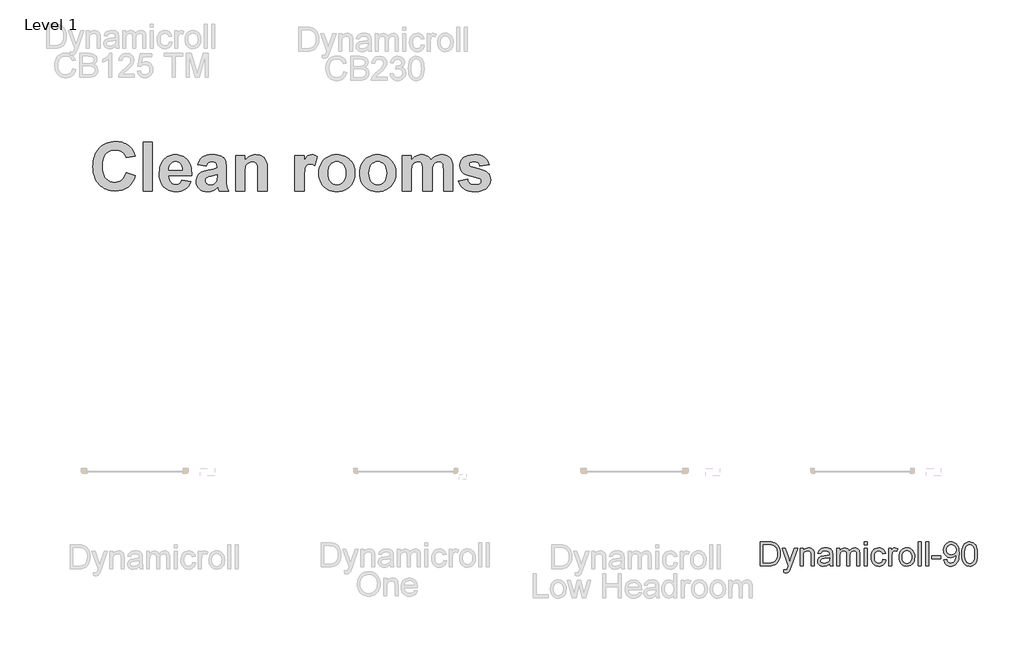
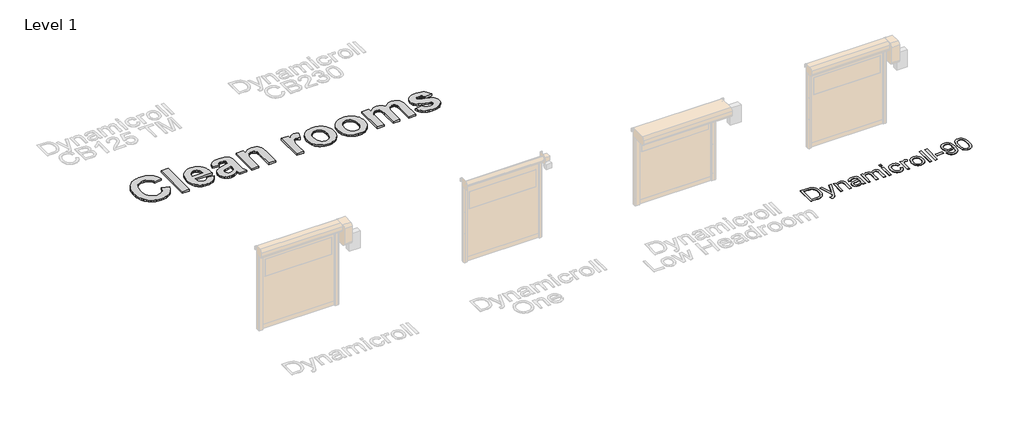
# One storey, part 15 of 20: 2 proxies.
"""IFC4 building model written with IfcOpenShell, lengths in millimetres."""

import ifcopenshell
import ifcopenshell.guid

model = None  # the IFC model being written
_history = None  # IfcOwnerHistory: only IFC2X3 demands one
_inside = {}  # id of a spatial element -> (the spatial element, [elements in it])
_under = {}  # id of a project, library or spatial element -> (it, [spatial elements below it])
_declared = {}  # id of a project -> (the project, [libraries it declares])
_typed = {}  # id of a type object -> (the type object, [elements of that type])
_made_of = {}  # id of a material, layer set ... -> (it, [elements and type objects made of it])


def new_model(schema):
    """Start an empty IFC model of exactly this schema.

    Asked for "IFC4X3", IfcOpenShell would pick the latest addendum, in which some entities
    have other attributes; the version numbers below select the first issue.
    IFC2X3 requires an IfcOwnerHistory on every rooted entity: one is made here for all.
    """
    global model, _history
    if schema == "IFC4X3":
        model = ifcopenshell.file(schema_version=(4, 3, 0, 0))
    else:
        model = ifcopenshell.file(schema=schema)
    _inside.clear()
    _under.clear()
    _declared.clear()
    _typed.clear()
    _made_of.clear()
    _history = None
    if model.schema == "IFC2X3":
        org = make("IfcOrganization", Name="unknown")
        user = make(
            "IfcPersonAndOrganization",
            ThePerson=make("IfcPerson", FamilyName="unknown"),
            TheOrganization=org,
        )
        app = make(
            "IfcApplication",
            ApplicationDeveloper=org,
            Version="unknown",
            ApplicationFullName="unknown",
            ApplicationIdentifier="unknown",
        )
        _history = make(
            "IfcOwnerHistory",
            OwningUser=user,
            OwningApplication=app,
            ChangeAction="ADDED",
            CreationDate=0,
        )
    return model


def make(cls, **values):
    """One entity of the class cls with the attributes given. An attribute that is None is left unset."""
    return model.create_entity(
        cls, **{name: value for name, value in values.items() if value is not None}
    )


def rooted(cls, **values):
    """An entity with a GlobalId (a new one), such as an element, a storey or a relation."""
    return make(cls, GlobalId=ifcopenshell.guid.new(), OwnerHistory=_history, **values)


def si_unit(unit_type, name, prefix=None):
    """IfcSIUnit, for example si_unit("LENGTHUNIT", "METRE", prefix="MILLI")."""
    return make("IfcSIUnit", UnitType=unit_type, Prefix=prefix, Name=name)


def assignment(units):
    """IfcUnitAssignment: the units of a project."""
    return None if units is None else make("IfcUnitAssignment", Units=units)


def point(xyz):
    """IfcCartesianPoint."""
    return None if xyz is None else make("IfcCartesianPoint", Coordinates=xyz)


def direction(xyz):
    """IfcDirection."""
    return None if xyz is None else make("IfcDirection", DirectionRatios=xyz)


def frame(location, z_axis=None, x_axis=None):
    """IfcAxis2Placement3D, a coordinate frame: its origin and axes. An axis left out is left unset."""
    return make(
        "IfcAxis2Placement3D",
        Location=point(location),
        Axis=direction(z_axis),
        RefDirection=direction(x_axis),
    )


def origin():
    """The frame at (0, 0, 0) with its axes left unset."""
    return frame((0.0, 0.0, 0.0))


def origin_with_axes():
    """The frame at (0, 0, 0) with the z axis (0, 0, 1) and the x axis (1, 0, 0) written out."""
    return frame((0.0, 0.0, 0.0), z_axis=(0.0, 0.0, 1.0), x_axis=(1.0, 0.0, 0.0))


def place(relative_to, where):
    """IfcLocalPlacement: puts the frame where relative to a parent placement (None: the world)."""
    return make(
        "IfcLocalPlacement", PlacementRelTo=relative_to, RelativePlacement=where
    )


def context(
    kind, dimensions, precision=None, world=None, true_north=None, identifier=None
):
    """IfcGeometricRepresentationContext, for example the 3D "Model" context."""
    return make(
        "IfcGeometricRepresentationContext",
        ContextIdentifier=identifier,
        ContextType=kind,
        CoordinateSpaceDimension=dimensions,
        Precision=precision,
        WorldCoordinateSystem=world,
        TrueNorth=true_north,
    )


def project(units=None, contexts=None):
    """IfcProject with its units and contexts."""
    return rooted(
        "IfcProject",
        Name="project",
        RepresentationContexts=contexts,
        UnitsInContext=assignment(units),
    )


def spatial(cls, under=None, at=None, **own):
    """A site, building, storey or space (cls), placed at a placement, below another one or the project."""
    s = rooted(cls, ObjectPlacement=at, **own)
    if under is not None:
        _under.setdefault(under.id(), (under, []))[1].append(s)
    return s


def polyline(points):
    """IfcPolyline through the points."""
    return make("IfcPolyline", Points=[point(p) for p in points])


def outline(outer, holes=None, kind="AREA"):
    """IfcArbitraryClosedProfileDef: a profile drawn as a closed curve; with holes, ...WithVoids."""
    if holes is None:
        return make("IfcArbitraryClosedProfileDef", ProfileType=kind, OuterCurve=outer)
    return make(
        "IfcArbitraryProfileDefWithVoids",
        ProfileType=kind,
        OuterCurve=outer,
        InnerCurves=holes,
    )


def extrude(swept, where, along, depth):
    """IfcExtrudedAreaSolid: the profile swept, set in the frame where, extruded along a direction by depth."""
    return make(
        "IfcExtrudedAreaSolid",
        SweptArea=swept,
        Position=where,
        ExtrudedDirection=direction(along),
        Depth=depth,
    )


def shape(context_of_items, identifier, shape_type, items):
    """IfcShapeRepresentation: the items that make up one representation, for example the "Body"."""
    return make(
        "IfcShapeRepresentation",
        ContextOfItems=context_of_items,
        RepresentationIdentifier=identifier,
        RepresentationType=shape_type,
        Items=items,
    )


def made_of(thing, what):
    """Note that an element or type object is made of a material, layer set ...; save() writes the relation."""
    if what is not None:
        _made_of.setdefault(what.id(), (what, []))[1].append(thing)
    return thing


def element(
    cls,
    number,
    at=None,
    inside=None,
    cuts=None,
    type_object=None,
    material=None,
    context=None,
    identifier="Body",
    shape_type=None,
    held_by="IfcProductDefinitionShape",
    body=None,
    shapes=None,
    **own,
):
    """One element of the class cls, such as IfcWall. Its Tag is "e" and its number.

    at: its placement. inside: the storey or other place that contains it. cuts: it is an
    opening in that element (IfcRelVoidsElement). A single representation is given by context,
    identifier, shape_type and body (its items); several are given by shapes. held_by: the class
    of the entity that holds the representations. save() writes the other relations.
    """
    e = rooted(cls, Tag="e%d" % number, ObjectPlacement=at, **own)
    if body is not None:
        shapes = [shape(context, identifier, shape_type, body)]
    if shapes is not None:
        e.Representation = make(held_by, Representations=shapes)
    if inside is not None:
        _inside.setdefault(inside.id(), (inside, []))[1].append(e)
    if cuts is not None:
        rooted(
            "IfcRelVoidsElement", RelatingBuildingElement=cuts, RelatedOpeningElement=e
        )
    if type_object is not None:
        _typed.setdefault(type_object.id(), (type_object, []))[1].append(e)
    return made_of(e, material)


def aggregate(whole, parts):
    """IfcRelAggregates: a whole, such as a stair, and the parts it consists of."""
    return rooted("IfcRelAggregates", RelatingObject=whole, RelatedObjects=parts)


def save(model, path):
    """Write the relations noted so far, then the file.

    IfcRelAggregates (storeys below a building ...), IfcRelContainedInSpatialStructure (elements
    in a storey), IfcRelDefinesByType, IfcRelAssociatesMaterial and IfcRelDeclares: one each for
    every whole, place, type object, material and project.
    """
    for whole, parts in _under.values():
        aggregate(whole, parts)
    for where, things in _inside.values():
        rooted(
            "IfcRelContainedInSpatialStructure",
            RelatedElements=things,
            RelatingStructure=where,
        )
    for kind, things in _typed.values():
        rooted("IfcRelDefinesByType", RelatedObjects=things, RelatingType=kind)
    for what, things in _made_of.values():
        rooted("IfcRelAssociatesMaterial", RelatedObjects=things, RelatingMaterial=what)
    for by, libraries in _declared.values():
        rooted("IfcRelDeclares", RelatingContext=by, RelatedDefinitions=libraries)
    model.write(path)


model = new_model("IFC4")

# Units and contexts
model_context = context("Model", 3, world=origin())
ifc_project = project(units=[si_unit("LENGTHUNIT", "METRE", prefix="MILLI")], contexts=[model_context])

# Site, building, storey
site = spatial("IfcSite", under=ifc_project)
building = spatial("IfcBuilding", under=site)
storey = spatial("IfcBuildingStorey", under=building, Name="Level 1", Elevation=0.0)

# Proxies
placement = place(None, origin())
element("IfcBuildingElementProxy", 1, Name="1000", ObjectType="1000", at=placement, inside=storey, context=model_context, shape_type="SweptSolid", body=[
    extrude(outline(polyline([(1304.7408851, 50927.9098645), (1499.0760089, 50863.1314899), (1472.2378981, 50786.2941528), (1437.7769415, 50720.0054425), (1395.6931391, 50664.2653592), (1371.7926706, 50640.3510527), (1345.9864908, 50619.0739028), (1288.8625921, 50584.1464027), (1224.5270384, 50559.1981884), (1152.9798297, 50544.2292598), (1074.2209661, 50539.2396169), (1024.4312889, 50541.3706926), (976.9110689, 50547.7639196), (931.6603061, 50558.419298), (888.6790006, 50573.3368278), (847.9671522, 50592.5165089), (809.5247611, 50615.9583413), (773.3518272, 50643.6623252), (739.4483505, 50675.6284603), (708.7276491, 50711.2913594), (682.1030413, 50750.085635), (659.574527, 50792.0112872), (641.1421062, 50837.0683158), (626.8057789, 50885.2567209), (616.5655451, 50936.5765025), (610.4214049, 50991.0276607), (608.3733581, 51048.6101953), (610.4391968, 51109.4269042), (616.6367128, 51166.7484908), (626.9659061, 51220.5749552), (641.4267768, 51270.9062972), (660.0193248, 51317.7425171), (682.7435501, 51361.0836146), (709.5994528, 51400.9295899), (740.5870328, 51437.2804429), (774.9432148, 51469.7210291), (811.9049235, 51497.8362038), (851.4721589, 51521.6259669), (893.6449209, 51541.0903186), (938.4232095, 51556.2292588), (985.8070249, 51567.0427876), (1035.7963669, 51573.5309048), (1088.3912355, 51575.6936105), (1134.349721, 51573.9104656), (1178.0941019, 51568.5610307), (1219.6243782, 51559.6453059), (1258.9405499, 51547.1632913), (1296.042617, 51531.1149867), (1330.9305795, 51511.5003922), (1363.6044374, 51488.3195077), (1394.0641907, 51461.5723334), (1426.9120139, 51424.2330408), (1455.363258, 51379.5239429), (1479.417923, 51327.4450397), (1499.0760089, 51267.9963312), (1304.7408851, 51235.6071439), (1292.4921421, 51271.1988753), (1274.9769932, 51302.8210336), (1252.1954384, 51330.4736185), (1224.1474776, 51354.1566302), (1191.8136429, 51373.1425772), (1156.1744664, 51386.7039678), (1117.2299479, 51394.8408023), (1074.9800877, 51397.5530804), (1017.2314952, 51392.6266977), (965.1921295, 51377.8475494), (918.8619908, 51353.2156358), (878.2410789, 51318.7309566), (860.5381265, 51297.5012519), (845.1955677, 51273.2231996), (832.2134026, 51245.8967996), (821.5916312, 51215.5220522), (807.4292692, 51145.6275144), (802.7084819, 51063.5395864), (807.2869339, 50976.6517958), (821.02229, 50903.2384133), (831.323807, 50871.584625), (843.91455, 50843.2994387), (858.7945191, 50818.3828545), (875.9637141, 50796.8348722), (915.3510535, 50762.07343), (960.2578393, 50737.2438284), (1010.6840716, 50722.3460674), (1066.6297503, 50717.3801471), (1108.2786393, 50720.5510612), (1146.9384872, 50730.0638034), (1182.6092938, 50745.9183739), (1215.2910592, 50768.1147725), (1244.2721069, 50797.1274503), (1268.8407605, 50833.4308582), (1288.9970199, 50877.0249963), (1304.7408851, 50927.9098645)])), origin_with_axes(), (0.0, 0.0, 1.0), 50.0),
    extrude(outline(polyline([(1661.0219454, 50539.2396169), (1661.0219454, 51559.4990169), (1855.3570692, 51559.4990169), (1855.3570692, 50539.2396169), (1661.0219454, 50539.2396169)])), origin_with_axes(), (0.0, 0.0, 1.0), 50.0),
    extrude(outline(polyline([(2470.7516279, 50765.963928), (2665.0867517, 50733.5747407), (2644.084388, 50685.1570176), (2617.7681734, 50642.8913423), (2586.1381076, 50606.7777148), (2549.1941909, 50576.816135), (2507.1103884, 50553.2912736), (2460.0606657, 50536.4878012), (2408.0450226, 50526.4057178), (2351.0634592, 50523.0450233), (2305.5280258, 50525.0258562), (2263.0528013, 50530.9683548), (2223.6377857, 50540.8725191), (2187.2829789, 50554.7383491), (2153.9883809, 50572.5658449), (2123.7539919, 50594.3550065), (2096.5798117, 50620.1058337), (2072.4658403, 50649.8183267), (2041.2469654, 50703.8899241), (2018.9477691, 50764.6354653), (2005.5682513, 50832.0549504), (2001.108412, 50906.1483793), (2007.0232343, 50993.5106208), (2014.4167622, 51033.4435788), (2024.7677012, 51070.8777616), (2038.0760513, 51105.8131692), (2054.3418126, 51138.2498016), (2073.5649851, 51168.1876588), (2095.7455687, 51195.6267408), (2120.187702, 51220.1795793), (2146.1955235, 51241.4587061), (2173.7690333, 51259.464121), (2202.9082313, 51274.1958241), (2233.6131176, 51285.6538154), (2265.8836922, 51293.8380949), (2299.719955, 51298.7486626), (2335.1219061, 51300.3855185), (2374.663442, 51298.7051713), (2412.0620409, 51293.6641295), (2447.3177029, 51285.2623933), (2480.430428, 51273.4999626), (2511.4002161, 51258.3768375), (2540.2270672, 51239.8930178), (2566.9109814, 51218.0485037), (2591.4519587, 51192.843295), (2613.391363, 51164.1666867), (2632.2705585, 51131.9079734), (2648.0895451, 51096.0671552), (2660.8483229, 51056.644232), (2670.5468918, 51013.6392039), (2677.1852518, 50967.0520709), (2680.763403, 50916.8828329), (2681.2813453, 50863.1314899), (2195.4435358, 50863.1314899), (2199.0651784, 50819.6401496), (2207.9057817, 50781.2728798), (2221.9653459, 50748.0296808), (2241.243871, 50719.9105523), (2264.4761543, 50697.5480959), (2290.3969931, 50681.5749127), (2319.0063876, 50671.9910028), (2350.3043376, 50668.7963661), (2391.1071224, 50674.5530381), (2408.8990344, 50681.7488781), (2424.9512927, 50691.823054), (2439.2006373, 50705.0918666), (2451.5838081, 50721.8716164), (2470.7516279, 50765.963928)]), holes=[polyline([(2486.9462215, 50976.4936455), (2483.4827293, 51017.5257482), (2475.1165769, 51053.3230751), (2461.8477644, 51083.8856261), (2443.6762916, 51109.2134013), (2421.9464365, 51129.0849901), (2398.0024767, 51143.278982), (2371.8444124, 51151.7953772), (2343.4722434, 51154.6341756), (2313.3287908, 51151.6451344), (2285.9055238, 51142.6780108), (2261.2024425, 51127.7328047), (2239.2195468, 51106.8095163), (2221.3169296, 51080.6356369), (2208.6016432, 51050.1916986), (2201.0736875, 51015.4777015), (2198.7330627, 50976.4936455), (2486.9462215, 50976.4936455)])]), origin_with_axes(), (0.0, 0.0, 1.0), 50.0),
    extrude(outline(polyline([(2988.9786247, 51057.4666137), (2810.8380945, 51089.855801), (2827.5783068, 51140.0210853), (2849.4584048, 51183.2277551), (2876.4783884, 51219.4758104), (2908.6382577, 51248.7652512), (2947.5669611, 51271.3491182), (2994.893447, 51287.4804517), (3050.6177153, 51297.1592518), (3114.739766, 51300.3855185), (3172.8916418, 51298.4323619), (3223.1043712, 51292.5728923), (3265.377954, 51282.8071095), (3299.7123903, 51269.1350136), (3327.8315188, 51252.4659689), (3351.4591779, 51233.7093399), (3370.5953676, 51212.8651266), (3385.2400881, 51189.933329), (3396.0892006, 51160.9364662), (3403.8385667, 51121.8970576), (3408.4881864, 51072.8151031), (3410.0380596, 51013.6906028), (3410.0380596, 50783.9298054), (3412.6000949, 50698.6551482), (3420.2862009, 50639.1906246), (3434.9941814, 50590.9231443), (3458.6218405, 50539.2396169), (3264.2867167, 50539.2396169), (3246.0677989, 50600.9815052), (3239.2357047, 50625.5264362), (3188.9439002, 50580.7698932), (3135.2360486, 50548.7286367), (3107.0694751, 50537.4920558), (3077.9856296, 50529.4659266), (3047.9845123, 50524.6502491), (3017.066123, 50523.0450233), (2964.5839365, 50526.9434289), (2917.9691271, 50538.6386457), (2877.221695, 50558.1306737), (2842.34164, 50585.4195129), (2814.3885694, 50618.6548045), (2794.4220904, 50655.9861895), (2782.442203, 50697.4136681), (2778.4489072, 50742.9372402), (2780.2280984, 50773.5867739), (2785.565672, 50802.528284), (2794.461628, 50829.7617706), (2806.9159664, 50855.2872336), (2822.5807564, 50878.5195169), (2841.1080674, 50898.8734642), (2862.4978994, 50916.3490755), (2886.7502523, 50930.9463508), (2949.4410425, 50955.554542), (3034.7789598, 50976.746686), (3145.2944095, 51001.7344379), (3215.7029358, 51025.0774264), (3215.7029358, 51045.573709), (3214.1926001, 51072.9337159), (3209.6615932, 51096.0552939), (3202.109915, 51114.9384432), (3191.5375656, 51129.5831636), (3176.7900474, 51140.5429814), (3156.7128632, 51148.3714226), (3131.3060129, 51153.0684874), (3100.5694966, 51154.6341756), (3060.2727928, 51149.2570645), (3043.8726037, 51142.5356755), (3029.9711899, 51133.1257309), (3017.9201348, 51120.3313694), (3007.0710223, 51103.4567293), (2988.9786247, 51057.4666137)]), holes=[polyline([(3215.7029358, 50879.3260836), (3106.1363881, 50852.3772676), (3044.1414593, 50836.9101655), (3007.9566641, 50821.6328437), (2992.5686371, 50808.6487017), (2981.5771893, 50793.9881663), (2974.9823206, 50777.6512373), (2972.784031, 50759.6379149), (2974.5474072, 50741.7906503), (2979.8375357, 50725.1927733), (2988.6544165, 50709.8442839), (3000.9980497, 50695.7451821), (3016.0618685, 50683.9550751), (3033.0393062, 50675.5335701), (3051.930363, 50670.4806671), (3072.7350387, 50668.7963661), (3096.8529638, 50670.7574302), (3120.3699177, 50676.6406224), (3143.2859003, 50686.4459428), (3165.6009117, 50700.1733913), (3192.8027682, 50726.6161263), (3208.6178011, 50758.3727123), (3213.9316521, 50791.0782002), (3215.7029358, 50844.1534505), (3215.7029358, 50879.3260836)])]), origin_with_axes(), (0.0, 0.0, 1.0), 50.0),
    extrude(outline(polyline([(4268.351523, 50539.2396169), (4074.0163992, 50539.2396169), (4074.0163992, 50922.0899324), (4070.9799129, 51022.2939807), (4067.184305, 51056.2646712), (4061.870454, 51079.4811395), (4045.8656407, 51111.1744653), (4022.1430915, 51134.8970146), (3991.8414885, 51149.6998854), (3956.0995142, 51154.6341756), (3931.9420515, 51152.8707995), (3909.0656065, 51147.580671), (3887.4701791, 51138.7637902), (3867.1557694, 51126.420157), (3849.0317418, 51111.1586503), (3834.0074605, 51093.5881488), (3822.0829258, 51073.7086525), (3813.2581374, 51051.5201614), (3806.8925867, 51023.2349751), (3802.3457647, 50985.0653933), (3798.7083072, 50879.0730431), (3798.7083072, 50539.2396169), (3604.3731834, 50539.2396169), (3604.3731834, 51284.1909248), (3798.7083072, 51284.1909248), (3798.7083072, 51176.9017419), (3822.5455155, 51205.843252), (3847.8772444, 51230.9258942), (3874.7034938, 51252.1496683), (3903.0242639, 51269.5145743), (3932.8395546, 51283.0206124), (3964.149366, 51292.6677825), (3996.9536979, 51298.4560845), (4031.2525504, 51300.3855185), (4090.3375132, 51294.5023263), (4117.8873004, 51287.148336), (4144.1086249, 51276.8527496), (4189.0233182, 51250.093714), (4206.8310452, 51234.2944962), (4221.5390258, 51216.882145), (4243.8382221, 51178.0087942), (4258.1033817, 51134.2644133), (4265.7894877, 51078.0577865), (4268.351523, 51001.7976981), (4268.351523, 50539.2396169)])), origin_with_axes(), (0.0, 0.0, 1.0), 50.0),
    extrude(outline(polyline([(5045.6920182, 50539.2396169), (4851.3568944, 50539.2396169), (4851.3568944, 51284.1909248), (5045.6920182, 51284.1909248), (5045.6920182, 51180.4443093), (5086.7478436, 51241.4587061), (5105.6151778, 51262.5006073), (5123.3754597, 51277.2323104), (5160.1928562, 51294.5972165), (5201.8180227, 51300.3855185), (5232.4201112, 51297.8234832), (5262.4844887, 51290.1373772), (5292.0111551, 51277.3272006), (5321.0001103, 51259.3929533), (5264.3190325, 51074.420329), (5217.5065353, 51098.1428783), (5195.4287494, 51104.0735156), (5174.2366053, 51106.0503947), (5136.8814977, 51100.5151332), (5120.5524763, 51093.5960563), (5105.7891431, 51083.9093487), (5092.5519606, 51070.6168136), (5080.8013912, 51052.8802542), (5061.7600916, 51004.0750628), (5054.7303095, 50967.3209264), (5049.7090366, 50914.7517572), (5045.6920182, 50762.1683202), (5045.6920182, 50539.2396169)])), origin_with_axes(), (0.0, 0.0, 1.0), 50.0),
    extrude(outline(polyline([(5353.3892976, 50922.342973), (5356.3862463, 50970.9188464), (5365.3770925, 51018.7197832), (5380.3618361, 51065.7457834), (5401.3404772, 51111.996847), (5427.8069347, 51155.1481642), (5459.2551276, 51192.8749251), (5495.6850558, 51225.1771297), (5537.0967193, 51252.0547781), (5582.2802682, 51273.199477), (5630.0258524, 51288.3028334), (5680.3334719, 51297.3648472), (5733.2031268, 51300.3855185), (5774.1344087, 51298.6735412), (5813.1718405, 51293.5376093), (5850.315422, 51284.9777227), (5885.5651534, 51272.9938816), (5918.9210346, 51257.5860858), (5950.3830656, 51238.7543354), (5979.9512464, 51216.4986304), (6007.625577, 51190.8189708), (6032.6825197, 51162.5219233), (6054.3985367, 51132.4140545), (6072.773628, 51100.4953644), (6087.8077936, 51066.7658531), (6099.5010335, 51031.2255205), (6107.8533478, 50993.8743666), (6112.8647363, 50954.7123915), (6114.5351992, 50913.7395951), (6112.8469444, 50872.4485212), (6107.7821801, 50832.9643148), (6099.3409063, 50795.2869758), (6087.523123, 50759.4165044), (6072.3288302, 50725.3529005), (6053.7580279, 50693.0961641), (6031.810716, 50662.6462952), (6006.4868946, 50634.0032938), (5978.6049917, 50607.9974492), (5948.9834352, 50585.4590505), (5917.622225, 50566.3880977), (5884.5213612, 50550.7845909), (5849.6808438, 50538.6485301), (5813.1006728, 50529.9799152), (5774.7808482, 50524.7787463), (5734.72137, 50523.0450233), (5684.5798083, 50525.9312668), (5635.624374, 50534.5899973), (5587.8550673, 50549.0212148), (5541.271888, 50569.2249192), (5498.0335881, 50595.0113303), (5460.2989197, 50626.1906676), (5428.0678828, 50662.7629311), (5401.3404772, 50704.7281208), (5380.3618361, 50751.8252887), (5365.3770925, 50803.7934866), (5356.3862463, 50860.6327147), (5353.3892976, 50922.342973)]), holes=[polyline([(5547.7244214, 50911.7152709), (5551.0851159, 50856.3231183), (5561.1671993, 50807.810505), (5577.9706717, 50766.177431), (5601.4955331, 50731.4238963), (5629.9546848, 50704.0243518), (5661.5610279, 50684.4532487), (5696.3145626, 50672.7105868), (5734.2152889, 50668.7963661), (5772.1002001, 50672.7105868), (5806.8062897, 50684.4532487), (5838.3335577, 50704.0243518), (5866.6820041, 50731.4238963), (5890.0961603, 50766.2723212), (5906.8205576, 50808.1900658), (5916.8551959, 50857.1771301), (5920.2000754, 50913.233514), (5916.8551959, 50967.9614353), (5906.8205576, 51015.9995976), (5890.0961603, 51057.348001), (5866.6820041, 51092.0066455), (5838.3335577, 51119.4061899), (5806.8062897, 51138.9772931), (5772.1002001, 51150.719955), (5734.2152889, 51154.6341756), (5696.3145626, 51150.719955), (5661.5610279, 51138.9772931), (5629.9546848, 51119.4061899), (5601.4955331, 51092.0066455), (5577.9706717, 51057.2531108), (5561.1671993, 51015.6200368), (5551.0851159, 50967.1074235), (5547.7244214, 50911.7152709)])]), origin_with_axes(), (0.0, 0.0, 1.0), 50.0),
    extrude(outline(polyline([(6211.7027611, 50922.342973), (6214.6997098, 50970.9188464), (6223.690556, 51018.7197832), (6238.6752996, 51065.7457834), (6259.6539407, 51111.996847), (6286.1203982, 51155.1481642), (6317.568591, 51192.8749251), (6353.9985192, 51225.1771297), (6395.4101828, 51252.0547781), (6440.5937317, 51273.199477), (6488.3393159, 51288.3028334), (6538.6469354, 51297.3648472), (6591.5165903, 51300.3855185), (6632.4478722, 51298.6735412), (6671.4853039, 51293.5376093), (6708.6288855, 51284.9777227), (6743.8786168, 51272.9938816), (6777.234498, 51257.5860858), (6808.696529, 51238.7543354), (6838.2647098, 51216.4986304), (6865.9390405, 51190.8189708), (6890.9959832, 51162.5219233), (6912.7120002, 51132.4140545), (6931.0870915, 51100.4953644), (6946.1212571, 51066.7658531), (6957.814497, 51031.2255205), (6966.1668112, 50993.8743666), (6971.1781998, 50954.7123915), (6972.8486626, 50913.7395951), (6971.1604079, 50872.4485212), (6966.0956436, 50832.9643148), (6957.6543698, 50795.2869758), (6945.8365865, 50759.4165044), (6930.6422937, 50725.3529005), (6912.0714913, 50693.0961641), (6890.1241795, 50662.6462952), (6864.8003581, 50634.0032938), (6836.9184552, 50607.9974492), (6807.2968986, 50585.4590505), (6775.9356885, 50566.3880977), (6742.8348247, 50550.7845909), (6707.9943073, 50538.6485301), (6671.4141363, 50529.9799152), (6633.0943116, 50524.7787463), (6593.0348334, 50523.0450233), (6542.8932717, 50525.9312668), (6493.9378375, 50534.5899973), (6446.1685307, 50549.0212148), (6399.5853514, 50569.2249192), (6356.3470516, 50595.0113303), (6318.6123832, 50626.1906676), (6286.3813462, 50662.7629311), (6259.6539407, 50704.7281208), (6238.6752996, 50751.8252887), (6223.690556, 50803.7934866), (6214.6997098, 50860.6327147), (6211.7027611, 50922.342973)]), holes=[polyline([(6406.0378849, 50911.7152709), (6409.3985793, 50856.3231183), (6419.4806628, 50807.810505), (6436.2841352, 50766.177431), (6459.8089966, 50731.4238963), (6488.2681482, 50704.0243518), (6519.8744914, 50684.4532487), (6554.6280261, 50672.7105868), (6592.5287524, 50668.7963661), (6630.4136636, 50672.7105868), (6665.1197532, 50684.4532487), (6696.6470212, 50704.0243518), (6724.9954676, 50731.4238963), (6748.4096238, 50766.2723212), (6765.134021, 50808.1900658), (6775.1686594, 50857.1771301), (6778.5135388, 50913.233514), (6775.1686594, 50967.9614353), (6765.134021, 51015.9995976), (6748.4096238, 51057.348001), (6724.9954676, 51092.0066455), (6696.6470212, 51119.4061899), (6665.1197532, 51138.9772931), (6630.4136636, 51150.719955), (6592.5287524, 51154.6341756), (6554.6280261, 51150.719955), (6519.8744914, 51138.9772931), (6488.2681482, 51119.4061899), (6459.8089966, 51092.0066455), (6436.2841352, 51057.2531108), (6419.4806628, 51015.6200368), (6409.3985793, 50967.1074235), (6406.0378849, 50911.7152709)])]), origin_with_axes(), (0.0, 0.0, 1.0), 50.0),
    extrude(outline(polyline([(7102.4054118, 51284.1909248), (7296.7405356, 51284.1909248), (7296.7405356, 51184.4929577), (7320.1191079, 51211.6552766), (7344.58101, 51235.195953), (7370.1262418, 51255.1149869), (7396.7548034, 51271.4123783), (7424.4666948, 51284.0881271), (7453.2619158, 51293.1422334), (7483.1404667, 51298.5746972), (7514.1023473, 51300.3855185), (7546.5152571, 51298.6063273), (7576.6982473, 51293.2687537), (7604.6513179, 51284.3727977), (7630.3744689, 51271.9184593), (7653.8835152, 51255.8582935), (7675.194272, 51236.144855), (7694.3067392, 51212.778144), (7711.2209168, 51185.7581603), (7735.615605, 51212.778144), (7760.9750102, 51236.144855), (7787.2991324, 51255.8582935), (7814.5879716, 51271.9184593), (7842.8257128, 51284.3727977), (7871.9965409, 51293.2687537), (7902.100456, 51298.6063273), (7933.137458, 51300.3855185), (7971.5838028, 51298.3058417), (8006.9620314, 51292.0668112), (8039.2721435, 51281.6684271), (8068.5141392, 51267.1106894), (8094.4824232, 51248.5201182), (8116.9713999, 51226.023234), (8135.9810694, 51199.6200366), (8151.5114317, 51169.3105261), (8160.1464396, 51141.8398141), (8166.3143025, 51106.9992967), (8171.2485927, 51015.2088459), (8171.2485927, 50539.2396169), (7976.9134689, 50539.2396169), (7976.9134689, 50968.1433081), (7971.9791787, 51059.9337589), (7965.8113158, 51090.9786684), (7957.1763079, 51112.1233673), (7942.2152868, 51130.721846), (7923.6484382, 51144.0064736), (7901.4757622, 51151.9772501), (7875.6972586, 51154.6341756), (7855.9996352, 51153.0447648), (7836.887168, 51148.2765324), (7800.4177022, 51129.2036028), (7784.0016981, 51115.0096108), (7770.0528391, 51097.8582077), (7758.5711252, 51077.7493934), (7749.5565565, 51054.683168), (7742.7481849, 51026.5798546), (7737.8850622, 50991.3597764), (7733.9945642, 50899.5693257), (7733.9945642, 50539.2396169), (7539.6594404, 50539.2396169), (7539.6594404, 50950.4304713), (7537.1290351, 51040.5445286), (7529.5378193, 51091.753605), (7516.6643826, 51119.4615426), (7498.2873144, 51139.0721833), (7473.3311925, 51150.7436776), (7440.7205948, 51154.6341756), (7419.3861155, 51153.0922099), (7399.1586884, 51148.4663128), (7380.0383137, 51140.7564843), (7362.0249913, 51129.9627244), (7345.7987675, 51116.2510909), (7332.039689, 51099.7876417), (7320.7477555, 51080.5723768), (7311.9229672, 51058.6052961), (7305.2806534, 51031.4271621), (7300.5361435, 50996.5787372), (7296.7405356, 50903.8710146), (7296.7405356, 50539.2396169), (7102.4054118, 50539.2396169), (7102.4054118, 51284.1909248)])), origin_with_axes(), (0.0, 0.0, 1.0), 50.0),
    extrude(outline(polyline([(8284.6107483, 50749.7693344), (8478.9458721, 50782.1585217), (8486.6082555, 50756.0004573), (8497.4494605, 50733.1951799), (8511.4694871, 50713.7426895), (8528.6683354, 50697.6429861), (8549.3148608, 50685.0225899), (8573.6779189, 50676.0080211), (8601.7575098, 50670.5992799), (8633.5536333, 50668.7963661), (8668.3308906, 50670.5202047), (8698.5217883, 50675.6917205), (8724.1263265, 50684.3109134), (8745.1445052, 50696.3777834), (8756.2150282, 50706.8157051), (8764.1225446, 50718.8983902), (8768.8670545, 50732.6258388), (8770.4485578, 50747.9980507), (8767.0957708, 50768.1147725), (8757.0374099, 50784.4358864), (8734.0739822, 50797.7837742), (8693.5242379, 50809.9929795), (8589.1608361, 50835.3919223), (8505.8314279, 50859.7154428), (8443.5360135, 50882.9635411), (8402.2745928, 50905.1362172), (8364.9669302, 50938.1738209), (8338.3185999, 50977.0629867), (8322.3296016, 51021.8037146), (8316.9999356, 51072.3960048), (8321.5704801, 51118.6866059), (8335.2821136, 51161.1499692), (8358.134836, 51199.7860945), (8390.1286475, 51234.5949818), (8431.737999, 51263.3783416), (8483.4373414, 51283.9378843), (8545.2266748, 51296.2736099), (8617.1059991, 51300.3855185), (8685.5376463, 51297.0643616), (8744.575164, 51287.1008909), (8794.2185522, 51270.4951064), (8834.4678108, 51247.2470081), (8867.2523739, 51217.4831162), (8894.5016755, 51181.3299511), (8916.2157157, 51138.7875127), (8932.3944943, 51089.855801), (8738.0593705, 51057.4666137), (8723.7625808, 51099.0285201), (8713.293029, 51115.6817497), (8700.6093727, 51129.5831636), (8685.363681, 51140.5429814), (8667.2080233, 51148.3714226), (8646.1423995, 51153.0684874), (8622.1668097, 51154.6341756), (8566.8141946, 51149.3203246), (8546.0174264, 51142.6780108), (8529.8070178, 51133.3787715), (8515.953049, 51115.9189752), (8511.3350594, 51093.9044495), (8515.953049, 51074.8631499), (8529.8070178, 51058.7318164), (8549.8525719, 51048.1199293), (8585.1912628, 51035.5153481), (8701.748055, 51004.3281033), (8769.7606038, 50985.7138096), (8826.6551846, 50965.0435617), (8872.4317972, 50942.3173595), (8907.0904417, 50917.535203), (8932.3312341, 50888.7676582), (8950.3603716, 50854.8444127), (8961.1778541, 50815.7654665), (8964.7836816, 50771.5308196), (8959.5568132, 50722.3381599), (8943.8762081, 50676.7355126), (8917.7418663, 50634.7228778), (8881.1537878, 50596.3002555), (8858.9909961, 50579.1310605), (8834.317568, 50564.2510914), (8777.4388023, 50541.3588313), (8710.5174907, 50527.6234753), (8633.5536333, 50523.0450233), (8563.0423093, 50526.8564462), (8500.2961664, 50538.290715), (8445.3152047, 50557.3478296), (8398.0994241, 50584.02779), (8358.5064893, 50617.255174), (8326.3940651, 50655.9545595), (8301.7621514, 50700.1259462), (8284.6107483, 50749.7693344)])), origin_with_axes(), (0.0, 0.0, 1.0), 50.0),
])
element("IfcBuildingElementProxy", 2, Name="500mm", ObjectType="500mm", at=placement, inside=storey, context=model_context, shape_type="SweptSolid", body=[
    extrude(outline(polyline([(14635.3862268, 42654.3224634), (14635.3862268, 43156.6040142), (14808.6586466, 43156.6040142), (14860.4380374, 43154.795261), (14898.299226, 43149.3690016), (14938.3370499, 43135.4201426), (14972.1208797, 43113.4391934), (14990.7372415, 43095.4742893), (15006.8550715, 43075.1794659), (15020.4743695, 43052.5547232), (15031.5951356, 43027.6000612), (15046.4023859, 42971.6206842), (15051.338136, 42908.1610401), (15047.9965413, 42854.2509994), (15037.9717569, 42806.8095504), (15022.7046541, 42766.419173), (15003.636104, 42733.662347), (14981.6858116, 42707.8033085), (14957.7734819, 42688.1062933), (14930.320288, 42673.4983124), (14897.7474031, 42662.9063766), (14859.9935133, 42656.4684417), (14816.9973051, 42654.3224634), (14635.3862268, 42654.3224634)]), holes=[polyline([(14698.1714207, 42717.1076573), (14809.2717832, 42717.1076573), (14855.2263758, 42719.3762629), (14890.0831948, 42726.1820798), (14916.3867575, 42737.1265692), (14936.6815809, 42751.8111921), (14958.4939175, 42778.9884745), (14974.8799947, 42814.1671903), (14985.1347053, 42857.5006237), (14988.5529422, 42909.1420587), (14986.8783127, 42945.5930331), (14981.8544242, 42977.5681098), (14973.4812767, 43005.067289), (14961.7588702, 43028.0905705), (14947.6375665, 43047.1591206), (14932.0677275, 43062.7941054), (14915.0493531, 43074.9955249), (14896.5824434, 43083.7633791), (14860.4686942, 43091.30496), (14807.5550006, 43093.8188203), (14698.1714207, 43093.8188203), (14698.1714207, 42717.1076573)])]), origin_with_axes(), (0.0, 0.0, 1.0), 5.0),
    extrude(outline(polyline([(15129.8196283, 42513.0557773), (15121.9714791, 42573.5110518), (15153.8545854, 42567.9928219), (15170.623873, 42569.7249329), (15183.653027, 42574.9212661), (15193.8004387, 42583.2139394), (15201.9244994, 42594.2350709), (15219.0923258, 42640.4655749), (15223.9974191, 42655.6713641), (15090.5788822, 43023.1854772), (15156.7976413, 43023.1854772), (15227.5536117, 42818.3978333), (15252.2017054, 42736.4827757), (15276.8497991, 42808.8329014), (15349.5678068, 43023.1854772), (15415.2960566, 43023.1854772), (15286.9052403, 42645.4932955), (15253.5506061, 42563.5782379), (15236.4747501, 42537.4279594), (15217.1302885, 42519.3097712), (15194.65883, 42508.7331638), (15168.2019832, 42505.207628), (15150.0224812, 42507.1696653), (15129.8196283, 42513.0557773)])), origin_with_axes(), (0.0, 0.0, 1.0), 5.0),
    extrude(outline(polyline([(15467.2900453, 42654.3224634), (15467.2900453, 43023.1854772), (15530.0752391, 43023.1854772), (15530.0752391, 42971.6819979), (15551.8875757, 42997.6483354), (15578.0838395, 43016.1957193), (15608.6640303, 43027.3241497), (15643.6281483, 43031.0336265), (15674.5762211, 43028.0445853), (15702.9184632, 43019.0774616), (15726.5548814, 43005.25123), (15743.3854826, 42987.6848647), (15754.8051529, 42966.4243511), (15762.2087781, 42941.5156743), (15765.519716, 42880.8151451), (15765.519716, 42654.3224634), (15702.7345222, 42654.3224634), (15702.7345222, 42872.3538592), (15700.925769, 42904.8194453), (15695.4995096, 42927.9040405), (15685.4900536, 42944.4434019), (15669.9317109, 42957.2732864), (15649.9894411, 42965.5046461), (15626.8282038, 42968.2484326), (15607.7634859, 42966.7079268), (15590.0553327, 42962.0864092), (15573.7037445, 42954.3838799), (15558.7087211, 42943.6003389), (15546.1815727, 42928.5095129), (15537.2336096, 42907.8851286), (15531.8648317, 42881.7271859), (15530.0752391, 42850.0356848), (15530.0752391, 42654.3224634), (15467.2900453, 42654.3224634)])), origin_with_axes(), (0.0, 0.0, 1.0), 5.0),
    extrude(outline(polyline([(16087.2938345, 42701.4113588), (16057.2961234, 42675.690276), (16026.4093643, 42658.8596747), (15993.9284498, 42649.5706543), (15959.1482728, 42646.4743142), (15931.1930733, 42648.3367168), (15906.6791032, 42653.9239246), (15885.6063627, 42663.2359376), (15867.9748517, 42676.2727558), (15854.0528174, 42692.2066447), (15844.1085072, 42710.2098698), (15838.1419211, 42730.2824312), (15836.1530591, 42752.4243288), (15839.1574287, 42778.4519799), (15848.1705376, 42802.0883981), (15862.0734113, 42822.3219079), (15879.7470755, 42838.1408337), (15900.5170798, 42850.0969985), (15923.7089739, 42858.7422254), (15978.0328819, 42868.1845299), (16042.2282901, 42878.1173438), (16086.9259525, 42889.7669403), (16087.2938345, 42903.7464561), (16082.971221, 42931.7668014), (16070.0033807, 42950.0995875), (16056.9282414, 42958.0397073), (16041.0020167, 42963.7112214), (16000.5963109, 42968.2484326), (15963.1949748, 42965.2287346), (15937.0753531, 42956.1696405), (15919.2637332, 42939.4156813), (15906.7864022, 42913.311388), (15844.0012083, 42921.1595372), (15854.8997124, 42955.4951901), (15871.1631623, 42982.4732031), (15894.3090712, 43003.1052517), (15925.8549522, 43018.4030113), (15964.4365765, 43027.8759727), (16008.6897148, 43031.0336265), (16051.1341, 43028.2438547), (16084.7799742, 43019.8745393), (16110.1485034, 43007.2899094), (16127.7608539, 42991.854194), (16139.4411073, 42972.7703155), (16147.013345, 42949.2411962), (16150.0790283, 42894.3041516), (16150.0790283, 42816.1905413), (16153.2673389, 42707.1135297), (16157.9884912, 42680.1508452), (16165.7753268, 42654.3224634), (16102.9901329, 42654.3224634), (16092.9346917, 42676.1501285), (16087.2938345, 42701.4113588)]), holes=[polyline([(16087.2938345, 42826.9817465), (16045.1100323, 42816.5277664), (15986.0036585, 42807.7292554), (15931.9863188, 42797.5511869), (15917.9301609, 42790.5920858), (15907.5221662, 42780.9964971), (15901.0842312, 42769.5001847), (15898.9382529, 42756.8389127), (15903.61342, 42738.1689015), (15917.638921, 42722.8711418), (15940.7081878, 42712.6624165), (15972.514652, 42709.259508), (16006.2371682, 42713.0149701), (16036.0356098, 42724.2813562), (16060.1931941, 42740.8820312), (16076.9931386, 42760.64036), (16084.442749, 42780.9964971), (16086.9259525, 42809.2007834), (16087.2938345, 42826.9817465)])]), origin_with_axes(), (0.0, 0.0, 1.0), 5.0),
    extrude(outline(polyline([(16236.4086698, 42654.3224634), (16236.4086698, 43023.1854772), (16299.1938637, 43023.1854772), (16299.1938637, 42962.484948), (16318.0784728, 42990.3673376), (16342.3586844, 43012.2103311), (16371.2067642, 43026.3278026), (16403.7949776, 43031.0336265), (16438.7131104, 43026.2358321), (16466.7027988, 43011.8424491), (16487.6107589, 42988.8038391), (16501.2837064, 42958.0703641), (16524.1690321, 42989.9917914), (16550.2733254, 43012.7928109), (16579.5965861, 43026.4734226), (16612.1388142, 43031.0336265), (16637.2735851, 43029.1367349), (16659.3350085, 43023.4460603), (16678.3230844, 43013.9616026), (16694.2378128, 43000.6833619), (16706.8186107, 42983.4580539), (16715.8048948, 42962.1323945), (16721.1966653, 42936.7063836), (16722.9939221, 42907.1800214), (16722.9939221, 42654.3224634), (16660.2087283, 42654.3224634), (16660.2087283, 42880.2020084), (16658.7525287, 42911.5179633), (16654.38393, 42932.6251928), (16646.1985556, 42947.0798895), (16633.292029, 42958.4382461), (16616.6913539, 42965.795886), (16597.4235344, 42968.2484326), (16579.631075, 42966.6772699), (16563.4097783, 42961.9637819), (16548.7596443, 42954.1079684), (16535.6806729, 42943.1098296), (16524.9239567, 42928.6474687), (16517.2405879, 42910.3989889), (16512.6305667, 42888.3643902), (16511.0938929, 42862.5436727), (16511.0938929, 42654.3224634), (16448.3086991, 42654.3224634), (16448.3086991, 42887.1917664), (16444.6758644, 42922.6923789), (16433.7773603, 42948.0149229), (16425.3505633, 42956.8670834), (16414.6015113, 42963.1900552), (16386.1366419, 42968.2484326), (16361.9484007, 42964.876181), (16339.6608832, 42954.7594261), (16321.2667834, 42938.1434227), (16308.7587956, 42915.2734253), (16301.5850967, 42883.5436032), (16299.1938637, 42840.3481256), (16299.1938637, 42654.3224634), (16236.4086698, 42654.3224634)])), origin_with_axes(), (0.0, 0.0, 1.0), 5.0),
    extrude(outline(polyline([(16817.1717129, 43093.8188203), (16817.1717129, 43156.6040142), (16879.9569067, 43156.6040142), (16879.9569067, 43093.8188203), (16817.1717129, 43093.8188203)])), origin_with_axes(), (0.0, 0.0, 1.0), 5.0),
    extrude(outline(polyline([(16817.1717129, 42654.3224634), (16817.1717129, 43023.1854772), (16879.9569067, 43023.1854772), (16879.9569067, 42654.3224634), (16817.1717129, 42654.3224634)])), origin_with_axes(), (0.0, 0.0, 1.0), 5.0),
    extrude(outline(polyline([(17209.5791744, 42787.7410003), (17272.3643683, 42779.8928511), (17265.5355587, 42750.2668542), (17254.8593167, 42724.0514299), (17240.3356421, 42701.2465783), (17221.9645349, 42681.8522994), (17200.5200803, 42666.3744309), (17176.7763632, 42655.3188105), (17150.7333836, 42648.6854383), (17122.3911416, 42646.4743142), (17087.1779368, 42649.559158), (17055.605231, 42658.8136894), (17027.6730241, 42674.2379085), (17003.3813161, 42695.8318152), (16983.7187899, 42723.1892065), (16969.6741283, 42755.9038793), (16961.2473314, 42793.9758337), (16958.438399, 42837.4050697), (16963.2361934, 42893.2771477), (16977.6295765, 42941.6996153), (16988.4820953, 42962.6497285), (17001.8484745, 42980.8024057), (17017.7287139, 42996.1576469), (17036.1228137, 43008.7154521), (17077.1263277, 43025.4540829), (17121.5327502, 43031.0336265), (17149.3883151, 43029.1175744), (17174.5843996, 43023.3694182), (17197.1210039, 43013.7891579), (17216.998128, 43000.3767935), (17233.8785466, 42983.4388933), (17247.4250347, 42963.2820257), (17257.6375921, 42939.9061906), (17264.516219, 42913.311388), (17201.7310252, 42905.4632388), (17190.3420117, 42932.855119), (17172.6070339, 42952.4908205), (17149.5071103, 42964.3090296), (17122.0232596, 42968.2484326), (17100.6899359, 42966.3093879), (17081.4489412, 42960.4922539), (17064.3002753, 42950.7970305), (17049.2439382, 42937.2237177), (17036.9850371, 42919.458083), (17028.2286792, 42897.1858939), (17022.9748645, 42870.4071503), (17021.2235929, 42839.1218523), (17022.9365434, 42807.3652055), (17028.075395, 42780.2760615), (17036.6401477, 42757.8544203), (17048.6308015, 42740.100282), (17063.3882345, 42726.6074434), (17080.2533247, 42716.9697015), (17099.2260722, 42711.1870564), (17120.3064769, 42709.259508), (17152.8180482, 42714.0726308), (17179.4741645, 42728.5119991), (17190.2538734, 42739.4334958), (17198.8646113, 42752.9454949), (17209.5791744, 42787.7410003)])), origin_with_axes(), (0.0, 0.0, 1.0), 5.0),
    extrude(outline(polyline([(17327.3014129, 42654.3224634), (17327.3014129, 43023.1854772), (17382.2384575, 43023.1854772), (17382.2384575, 42968.6163146), (17402.5332809, 43000.2541662), (17421.233949, 43018.8935206), (17439.9959307, 43027.9986), (17460.4746951, 43031.0336265), (17491.7446647, 43026.1898469), (17523.5051436, 43011.6585081), (17502.5358699, 42955.3725628), (17480.4629502, 42965.0294652), (17458.3900305, 42968.2484326), (17439.6433771, 42965.1520925), (17422.8894179, 42955.8630721), (17409.3544262, 42941.0864786), (17400.2646752, 42921.5274192), (17392.6311238, 42886.4560024), (17390.0866067, 42848.1962749), (17390.0866067, 42654.3224634), (17327.3014129, 42654.3224634)])), origin_with_axes(), (0.0, 0.0, 1.0), 5.0),
    extrude(outline(polyline([(17547.0495913, 42838.7539703), (17550.4448356, 42886.5249802), (17560.6305683, 42927.6894427), (17577.6067895, 42962.2473576), (17601.3734993, 42990.198725), (17625.3011574, 43008.0639944), (17651.7120189, 43020.8249011), (17680.606084, 43028.4814451), (17711.9833525, 43031.0336265), (17746.6217416, 43027.92579), (17777.9415285, 43018.6022807), (17805.9427133, 43003.0630985), (17830.6252959, 42981.3082435), (17850.7706673, 42954.0734795), (17865.1602182, 42922.0945706), (17873.7939488, 42885.3715169), (17876.671859, 42843.9043183), (17871.5828247, 42780.4753309), (17865.2215319, 42754.4400156), (17856.3157219, 42732.1908191), (17844.9765259, 42712.9728169), (17831.3150747, 42696.0310846), (17815.3313684, 42681.3656222), (17797.025407, 42668.9764296), (17756.2978045, 42652.099843), (17711.9833525, 42646.4743142), (17676.8391256, 42649.5706543), (17645.2280988, 42658.8596747), (17617.1502719, 42674.3413753), (17592.6056451, 42696.0157562), (17572.6748715, 42723.5149353), (17558.4386048, 42756.4710307), (17549.8968447, 42794.8840424), (17547.0495913, 42838.7539703)]), holes=[polyline([(17609.8347852, 42838.8765977), (17611.6512025, 42808.4228662), (17617.1004546, 42782.0541578), (17626.1825413, 42759.7704724), (17638.8974628, 42741.5718099), (17654.363835, 42727.4351778), (17671.700274, 42717.3375835), (17690.9067799, 42711.2790269), (17711.9833525, 42709.259508), (17732.9526262, 42711.2905232), (17752.08249, 42717.3835687), (17769.3729437, 42727.5386447), (17784.8239875, 42741.7557509), (17797.538909, 42760.1345223), (17806.6209958, 42782.7745934), (17812.0702478, 42809.6759643), (17813.8866652, 42840.838635), (17812.0587515, 42870.3266761), (17806.5750105, 42896.0056058), (17797.4354422, 42917.875424), (17784.6400465, 42935.9361307), (17769.1315212, 42950.0727628), (17751.8525637, 42960.1703571), (17732.8031742, 42966.2289138), (17711.9833525, 42968.2484326), (17690.9067799, 42966.236578), (17671.700274, 42960.201014), (17654.363835, 42950.1417407), (17638.8974628, 42936.058758), (17626.1825413, 42917.9137451), (17617.1004546, 42895.6683807), (17611.6512025, 42869.3226649), (17609.8347852, 42838.8765977)])]), origin_with_axes(), (0.0, 0.0, 1.0), 5.0),
    extrude(outline(polyline([(17947.3052021, 42654.3224634), (17947.3052021, 43156.6040142), (18010.0903959, 43156.6040142), (18010.0903959, 42654.3224634), (17947.3052021, 42654.3224634)])), origin_with_axes(), (0.0, 0.0, 1.0), 5.0),
    extrude(outline(polyline([(18104.2681867, 42654.3224634), (18104.2681867, 43156.6040142), (18167.0533805, 43156.6040142), (18167.0533805, 42654.3224634), (18104.2681867, 42654.3224634)])), origin_with_axes(), (0.0, 0.0, 1.0), 5.0),
    extrude(outline(polyline([(18229.8385744, 42803.4372988), (18229.8385744, 42866.2224926), (18426.0423051, 42866.2224926), (18426.0423051, 42803.4372988), (18229.8385744, 42803.4372988)])), origin_with_axes(), (0.0, 0.0, 1.0), 5.0),
    extrude(outline(polyline([(18488.827499, 42779.8928511), (18551.6126928, 42787.7410003), (18562.3425843, 42752.102432), (18579.8169791, 42727.8375488), (18603.6066815, 42713.9040182), (18633.2824957, 42709.259508), (18659.9079551, 42712.2485492), (18684.1115247, 42721.2156729), (18704.2224072, 42735.1798603), (18718.569805, 42753.1600928), (18729.4376522, 42776.796511), (18739.109883, 42807.7292554), (18745.9156999, 42843.2298679), (18748.1843056, 42880.5698904), (18747.8164236, 42892.8326236), (18726.0654006, 42866.2838063), (18697.6005312, 42845.2532189), (18664.4758233, 42831.5496146), (18628.7452845, 42826.9817465), (18598.9200181, 42829.7715183), (18571.493649, 42838.1408337), (18546.466177, 42852.0896926), (18523.8376022, 42871.6180952), (18505.0871167, 42895.7067017), (18491.6939129, 42923.3361724), (18483.6579905, 42954.5065073), (18480.9793497, 42989.2177064), (18483.7882821, 43025.0862009), (18492.215079, 43057.2758755), (18506.2597406, 43085.7867301), (18525.9222668, 43110.6187648), (18549.815436, 43130.7373114), (18576.5520264, 43145.1077018), (18606.1320381, 43153.7299361), (18638.555471, 43156.6040142), (18662.4946254, 43154.9638736), (18685.3837833, 43150.0434519), (18707.2229447, 43141.8427491), (18728.0121095, 43130.3617652), (18747.057667, 43115.8457548), (18763.6660062, 43098.5399726), (18777.8371272, 43078.4444186), (18789.57103, 43055.5590928), (18798.771912, 43028.5657514), (18805.3439706, 42996.1461506), (18810.6016174, 42915.0281707), (18805.359299, 42829.0204259), (18798.806401, 42793.3397044), (18789.6323437, 42762.5410837), (18777.8716162, 42735.8734711), (18763.5587073, 42712.5857744), (18746.6936171, 42692.6779935), (18727.2763455, 42676.1501285), (18705.6977672, 42663.1669597), (18682.3487569, 42653.8932677), (18657.2293144, 42648.3290526), (18630.3394398, 42646.4743142), (18602.1428177, 42648.6624456), (18576.6593253, 42655.22684), (18553.8889627, 42666.1674972), (18533.8317297, 42681.4844174), (18516.9934642, 42700.7637332), (18503.8800039, 42723.5915774), (18494.4913489, 42749.9679501), (18488.827499, 42779.8928511)]), holes=[polyline([(18747.8164236, 42990.6892343), (18746.1226336, 43013.1913497), (18741.0412635, 43033.2409184), (18732.5723134, 43050.8379405), (18720.7157833, 43065.982416), (18706.0541529, 43078.1608429), (18689.1699022, 43086.8597192), (18670.0630311, 43092.079045), (18648.7335395, 43093.8188203), (18626.7219335, 43091.9449214), (18606.7949921, 43086.3232247), (18588.9527153, 43076.9537301), (18573.1951032, 43063.8364377), (18560.3192334, 43047.7377683), (18551.1221835, 43029.4241427), (18545.6039536, 43008.895561), (18543.7645436, 42986.1520231), (18545.5043189, 42965.7537328), (18550.7236447, 42947.355801), (18559.422521, 42930.9582275), (18571.6009479, 42916.5610123), (18586.7530876, 42904.8386058), (18604.3731023, 42896.4654583), (18624.4609921, 42891.4415698), (18647.0167569, 42889.7669403), (18668.0511764, 42891.4415698), (18687.1312228, 42896.4654583), (18704.2568961, 42904.8386058), (18719.4281963, 42916.5610123), (18731.8480457, 42931.2418032), (18740.7193668, 42948.4901038), (18746.0421594, 42968.3059142), (18747.8164236, 42990.6892343)])]), origin_with_axes(), (0.0, 0.0, 1.0), 5.0),
    extrude(outline(polyline([(18865.538662, 42901.4165368), (18870.1525154, 42981.8140812), (18883.9940755, 43045.9328473), (18894.3407566, 43072.1329431), (18906.9253865, 43094.7538537), (18921.7479652, 43113.7955791), (18938.8084927, 43129.2581192), (18958.1644506, 43141.2219482), (18979.8733205, 43149.7675404), (19003.9351022, 43154.8948957), (19030.3497959, 43156.6040142), (19069.038719, 43152.5573122), (19103.6809402, 43140.4172064), (19132.6516474, 43120.6588775), (19154.3260282, 43093.7575066), (19170.696777, 43059.9430199), (19183.7565879, 43019.4453436), (19192.3098443, 42968.0185064), (19195.1609297, 42901.4165368), (19190.5930616, 42821.478845), (19176.8894573, 42757.5133631), (19166.6232504, 42731.3017709), (19154.096102, 42708.6463714), (19139.3080122, 42689.5471644), (19122.258981, 42674.0041502), (19102.8800305, 42661.9598469), (19081.1021828, 42653.3567732), (19056.9254379, 42648.1949289), (19030.3497959, 42646.4743142), (18995.7688883, 42649.4633554), (18965.1120554, 42658.430479), (18938.3792971, 42673.3756851), (18915.5706134, 42694.2989736), (18893.6816347, 42732.1218412), (18878.0466499, 42779.2490576), (18868.665659, 42835.6806228), (18865.538662, 42901.4165368)]), holes=[polyline([(18928.3238559, 42901.5391642), (18930.1632659, 42846.9585052), (18935.6814958, 42802.7781769), (18944.8785457, 42768.9981791), (18957.7544155, 42745.6185119), (18973.3280866, 42729.7114477), (18990.6185404, 42718.349259), (19009.6257768, 42711.5319458), (19030.3497959, 42709.259508), (19051.0738149, 42711.53961), (19070.0810514, 42718.3799158), (19087.3715051, 42729.7804256), (19102.9451763, 42745.7411392), (19115.8210461, 42769.1591275), (19125.018096, 42802.931461), (19130.5363259, 42847.0581399), (19132.3757359, 42901.5391642), (19130.5976396, 42954.6751198), (19125.2633506, 42998.0775311), (19116.3728691, 43031.7463978), (19103.9261949, 43055.6817201), (19088.6131069, 43072.3667015), (19071.1233837, 43084.2845453), (19051.4570253, 43091.4352516), (19029.6140319, 43093.8188203), (19008.9973117, 43091.7188273), (18990.3119721, 43085.4188481), (18973.5580129, 43074.9188828), (18958.7354341, 43060.2189314), (18945.4303687, 43034.1606234), (18935.9267504, 42999.0278929), (18930.2245795, 42954.8207398), (18928.3238559, 42901.5391642)])]), origin_with_axes(), (0.0, 0.0, 1.0), 5.0),
])

save(model, "model.ifc")
